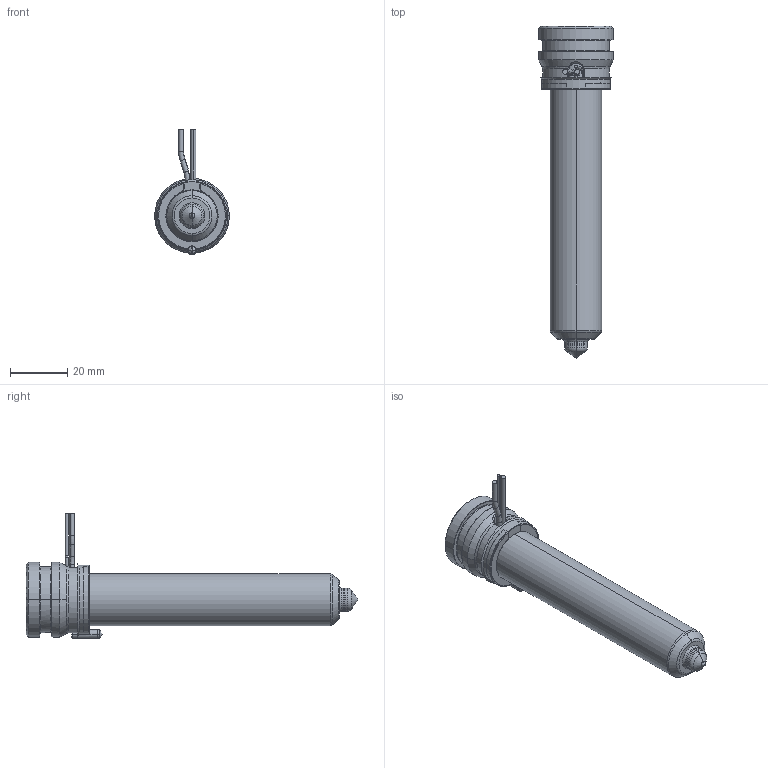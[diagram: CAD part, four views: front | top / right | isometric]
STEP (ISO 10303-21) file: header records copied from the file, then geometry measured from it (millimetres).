
FILE_DESCRIPTION((''),'2;1');
FILE_NAME('MPN-08-24-TX8-096-A','2026-02-05T11:54:33',('UPTIO'),('Thermoplay S.p.A.'),'CREO PARAMETRIC BY PTC INC, 2023494','CREO PARAMETRIC BY PTC INC, 2023494','');
FILE_SCHEMA(('CONFIG_CONTROL_DESIGN','SHAPE_APPEARANCE_LAYERS_GROUPS'));
Length unit declared in the file: millimetre
Products named in the file (1): MPN-08-24-TX8-096-A
Bounding box: 26 x 115.5 x 43.5 mm (x, y, z)
Volume: 22743.3 mm3; surface area: 28582.3 mm2
Topology: 2 solids, 3 shells, 548 faces, 1458 edges, 904 vertices
Faces by surface type: cylinder 180, plane 144, bspline 82, torus 64, cone 60, sphere 12, extrusion 6
Entity records: 29352 total; most frequent: CARTESIAN_POINT 13006, ORIENTED_EDGE 2896, DIRECTION 2574, EDGE_CURVE 1448, AXIS2_PLACEMENT_3D 1006, VERTEX_POINT 904, EDGE_LOOP 576, VECTOR 562
